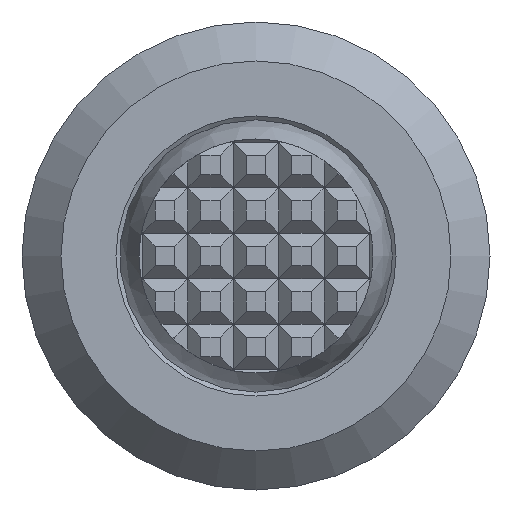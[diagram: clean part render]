
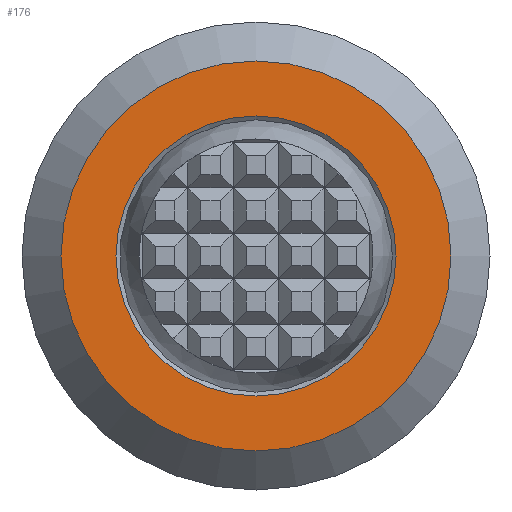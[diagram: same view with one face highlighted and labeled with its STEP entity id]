
A CAD part, front view. The second image highlights one B-rep face of the part: STEP entity #176.
In plain terms, the highlighted planar face has unit normal (0, -1, 0).
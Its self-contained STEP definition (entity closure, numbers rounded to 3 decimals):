
#176 = ADVANCED_FACE( '', ( #351, #352 ), #353, .F. );
#351 = FACE_BOUND( '', #685, .T. );
#352 = FACE_OUTER_BOUND( '', #686, .T. );
#353 = PLANE( '', #687 );
#685 = EDGE_LOOP( '', ( #1043 ) );
#686 = EDGE_LOOP( '', ( #1044 ) );
#687 = AXIS2_PLACEMENT_3D( '', #1045, #1046, #1047 );
#1043 = ORIENTED_EDGE( '', *, *, #2176, .F. );
#1044 = ORIENTED_EDGE( '', *, *, #2179, .T. );
#1045 = CARTESIAN_POINT( '', ( 5., 0., 0. ) );
#1046 = DIRECTION( '', ( 0., 1., 0. ) );
#1047 = DIRECTION( '', ( 0., 0., 1. ) );
#2176 = EDGE_CURVE( '', #2526, #2526, #2527, .T. );
#2179 = EDGE_CURVE( '', #2532, #2532, #2533, .T. );
#2526 = VERTEX_POINT( '', #3063 );
#2527 = CIRCLE( '', #3064, 3.59 );
#2532 = VERTEX_POINT( '', #3069 );
#2533 = CIRCLE( '', #3070, 5. );
#3063 = CARTESIAN_POINT( '', ( 0., 0., -3.59 ) );
#3064 = AXIS2_PLACEMENT_3D( '', #3845, #3846, #3847 );
#3069 = CARTESIAN_POINT( '', ( 0., 0., -5. ) );
#3070 = AXIS2_PLACEMENT_3D( '', #3854, #3855, #3856 );
#3845 = CARTESIAN_POINT( '', ( 0., 0., 0. ) );
#3846 = DIRECTION( '', ( 0., -1., 0. ) );
#3847 = DIRECTION( '', ( 0., 0., -1. ) );
#3854 = CARTESIAN_POINT( '', ( 0., 0., 0. ) );
#3855 = DIRECTION( '', ( 0., -1., 0. ) );
#3856 = DIRECTION( '', ( 0., 0., -1. ) );
